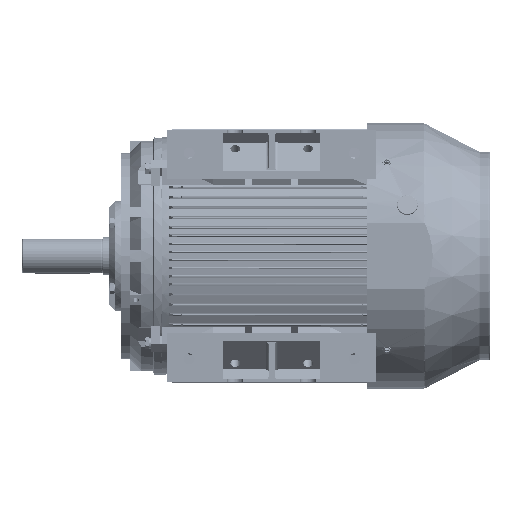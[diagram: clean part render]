
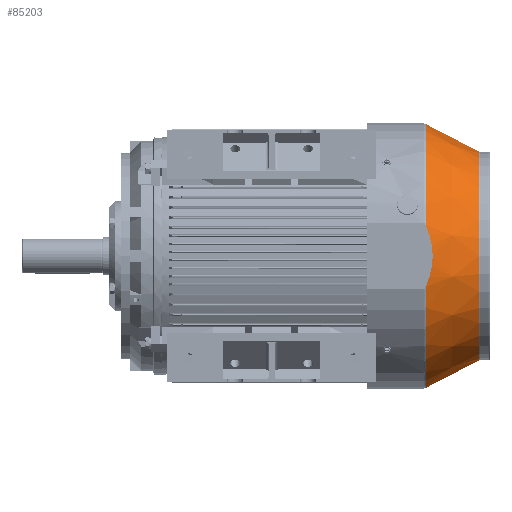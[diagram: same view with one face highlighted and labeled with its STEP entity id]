
A CAD part, front view. The second image highlights one B-rep face of the part: STEP entity #85203.
In plain terms, the highlighted conical face has half-angle 27.379 degrees and reference radius 180.336 mm.
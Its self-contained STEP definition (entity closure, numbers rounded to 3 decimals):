
#75154 = VERTEX_POINT ( 'NONE', #179729 ) ;
#80740 = EDGE_CURVE ( 'NONE', #83794, #75154, #208532, .T. ) ;
#83763 = EDGE_CURVE ( 'NONE', #83770, #83773, #219060, .T. ) ;
#83770 = VERTEX_POINT ( 'NONE', #219192 ) ;
#83773 = VERTEX_POINT ( 'NONE', #219190 ) ;
#83791 = EDGE_CURVE ( 'NONE', #83770, #83794, #219156, .T. ) ;
#83794 = VERTEX_POINT ( 'NONE', #219147 ) ;
#83809 = VERTEX_POINT ( 'NONE', #219287 ) ;
#83961 = EDGE_CURVE ( 'NONE', #83773, #83809, #219757, .T. ) ;
#84153 = EDGE_CURVE ( 'NONE', #84377, #83809, #220354, .T. ) ;
#84377 = VERTEX_POINT ( 'NONE', #221111 ) ;
#85203 = ADVANCED_FACE ( 'NONE', ( #224337 ), #224335, .T. ) ;
#85282 = ORIENTED_EDGE ( 'NONE', *, *, #84153, .F. ) ;
#85285 = ORIENTED_EDGE ( 'NONE', *, *, #85292, .T. ) ;
#85292 = EDGE_CURVE ( 'NONE', #84377, #75154, #224477, .T. ) ;
#85387 = ORIENTED_EDGE ( 'NONE', *, *, #80740, .F. ) ;
#85417 = ORIENTED_EDGE ( 'NONE', *, *, #83961, .T. ) ;
#85505 = ORIENTED_EDGE ( 'NONE', *, *, #83791, .F. ) ;
#85508 = ORIENTED_EDGE ( 'NONE', *, *, #83763, .T. ) ;
#85738 = EDGE_LOOP ( 'NONE', ( #85505, #85508, #85417, #85282, #85285, #85387 ) ) ;
#179729 = CARTESIAN_POINT ( 'NONE',  ( -53.757, -222., -101.514 ) ) ;
#208508 = DIRECTION ( 'NONE',  ( 1., 0., 0. ) ) ;
#208512 = DIRECTION ( 'NONE',  ( 0., 0., 1. ) ) ;
#208514 = CARTESIAN_POINT ( 'NONE',  ( 0., 0., -101.514 ) ) ;
#208516 = AXIS2_PLACEMENT_3D ( 'NONE', #208514, #208512, #208508 ) ;
#208532 = CIRCLE ( 'NONE', #208516, 228.416 ) ;
#219033 = DIRECTION ( 'NONE',  ( 1., 0., 0. ) ) ;
#219036 = DIRECTION ( 'NONE',  ( 0., 0., 1. ) ) ;
#219039 = CARTESIAN_POINT ( 'NONE',  ( 0., 0., -194.351 ) ) ;
#219041 = AXIS2_PLACEMENT_3D ( 'NONE', #219039, #219036, #219033 ) ;
#219060 = CIRCLE ( 'NONE', #219041, 180.336 ) ;
#219147 = CARTESIAN_POINT ( 'NONE',  ( -228.416, 0., -101.514 ) ) ;
#219150 = DIRECTION ( 'NONE',  ( -0.46, 0., 0.888 ) ) ;
#219151 = VECTOR ( 'NONE', #219150, 1000. ) ;
#219154 = CARTESIAN_POINT ( 'NONE',  ( -180.336, 0., -194.351 ) ) ;
#219156 = LINE ( 'NONE', #219154, #219151 ) ;
#219190 = CARTESIAN_POINT ( 'NONE',  ( 180.336, 0., -194.351 ) ) ;
#219192 = CARTESIAN_POINT ( 'NONE',  ( -180.336, 0., -194.351 ) ) ;
#219287 = CARTESIAN_POINT ( 'NONE',  ( 228.416, 0., -101.514 ) ) ;
#219743 = DIRECTION ( 'NONE',  ( 0.46, 0., 0.888 ) ) ;
#219744 = VECTOR ( 'NONE', #219743, 1000. ) ;
#219749 = CARTESIAN_POINT ( 'NONE',  ( 180.336, 0., -194.351 ) ) ;
#219757 = LINE ( 'NONE', #219749, #219744 ) ;
#220346 = DIRECTION ( 'NONE',  ( 1., 0., 0. ) ) ;
#220349 = DIRECTION ( 'NONE',  ( 0., 0., 1. ) ) ;
#220351 = CARTESIAN_POINT ( 'NONE',  ( 0., 0., -101.514 ) ) ;
#220352 = AXIS2_PLACEMENT_3D ( 'NONE', #220351, #220349, #220346 ) ;
#220354 = CIRCLE ( 'NONE', #220352, 228.416 ) ;
#221111 = CARTESIAN_POINT ( 'NONE',  ( 53.757, -222., -101.514 ) ) ;
#224322 = DIRECTION ( 'NONE',  ( 1., 0., 0. ) ) ;
#224324 = DIRECTION ( 'NONE',  ( 0., 0., 1. ) ) ;
#224325 = CARTESIAN_POINT ( 'NONE',  ( 0., 0., -194.351 ) ) ;
#224326 = AXIS2_PLACEMENT_3D ( 'NONE', #224325, #224324, #224322 ) ;
#224335 = CONICAL_SURFACE ( 'NONE', #224326, 180.336, 0.478 ) ;
#224337 = FACE_OUTER_BOUND ( 'NONE', #85738, .T. ) ;
#224477 = B_SPLINE_CURVE_WITH_KNOTS ( 'NONE', 3,
 ( #224659, #224658, #224657, #224656, #224653, #224649, #224645, #224644, #224642, #224640, #224638, #224635, #224631, #224628, #224625, #224623, #224620, #224618, #224616, #224614, #224612, #224609, #224607, #224605, #224603, #224601, #224599 ),
 .UNSPECIFIED., .F., .F.,
 ( 4, 2, 2, 2, 2, 2, 2, 2, 2, 2, 1, 2, 2, 4 ),
 ( 0.226, 0.233, 0.237, 0.24, 0.254, 0.267, 0.274, 0.278, 0.281, 0.309, 0.315, 0.319, 0.322, 0.336 ),
 .UNSPECIFIED. ) ;
#224599 = CARTESIAN_POINT ( 'NONE',  ( -53.757, -222., -101.514 ) ) ;
#224601 = CARTESIAN_POINT ( 'NONE',  ( -49.57, -222., -103.417 ) ) ;
#224603 = CARTESIAN_POINT ( 'NONE',  ( -45.284, -222., -105.155 ) ) ;
#224605 = CARTESIAN_POINT ( 'NONE',  ( -39.776, -222., -107.081 ) ) ;
#224607 = CARTESIAN_POINT ( 'NONE',  ( -38.669, -222., -107.453 ) ) ;
#224609 = CARTESIAN_POINT ( 'NONE',  ( -36.454, -222., -108.167 ) ) ;
#224612 = CARTESIAN_POINT ( 'NONE',  ( -33.122, -222., -109.194 ) ) ;
#224614 = CARTESIAN_POINT ( 'NONE',  ( -29.768, -222., -110.087 ) ) ;
#224616 = CARTESIAN_POINT ( 'NONE',  ( -18.534, -222., -112.756 ) ) ;
#224618 = CARTESIAN_POINT ( 'NONE',  ( -9.377, -222., -113.901 ) ) ;
#224620 = CARTESIAN_POINT ( 'NONE',  ( 1.148, -222., -113.903 ) ) ;
#224623 = CARTESIAN_POINT ( 'NONE',  ( 2.317, -222., -113.885 ) ) ;
#224625 = CARTESIAN_POINT ( 'NONE',  ( 4.647, -222., -113.814 ) ) ;
#224628 = CARTESIAN_POINT ( 'NONE',  ( 5.808, -222., -113.762 ) ) ;
#224631 = CARTESIAN_POINT ( 'NONE',  ( 9.284, -222., -113.551 ) ) ;
#224635 = CARTESIAN_POINT ( 'NONE',  ( 11.588, -222., -113.342 ) ) ;
#224638 = CARTESIAN_POINT ( 'NONE',  ( 18.465, -222., -112.513 ) ) ;
#224640 = CARTESIAN_POINT ( 'NONE',  ( 23.001, -222., -111.694 ) ) ;
#224642 = CARTESIAN_POINT ( 'NONE',  ( 31.985, -222., -109.562 ) ) ;
#224644 = CARTESIAN_POINT ( 'NONE',  ( 36.432, -222., -108.249 ) ) ;
#224645 = CARTESIAN_POINT ( 'NONE',  ( 41.94, -222., -106.325 ) ) ;
#224649 = CARTESIAN_POINT ( 'NONE',  ( 43.038, -222., -105.927 ) ) ;
#224653 = CARTESIAN_POINT ( 'NONE',  ( 45.216, -222., -105.106 ) ) ;
#224656 = CARTESIAN_POINT ( 'NONE',  ( 46.299, -222., -104.684 ) ) ;
#224657 = CARTESIAN_POINT ( 'NONE',  ( 49.527, -222., -103.383 ) ) ;
#224658 = CARTESIAN_POINT ( 'NONE',  ( 51.654, -222., -102.47 ) ) ;
#224659 = CARTESIAN_POINT ( 'NONE',  ( 53.757, -222., -101.514 ) ) ;
